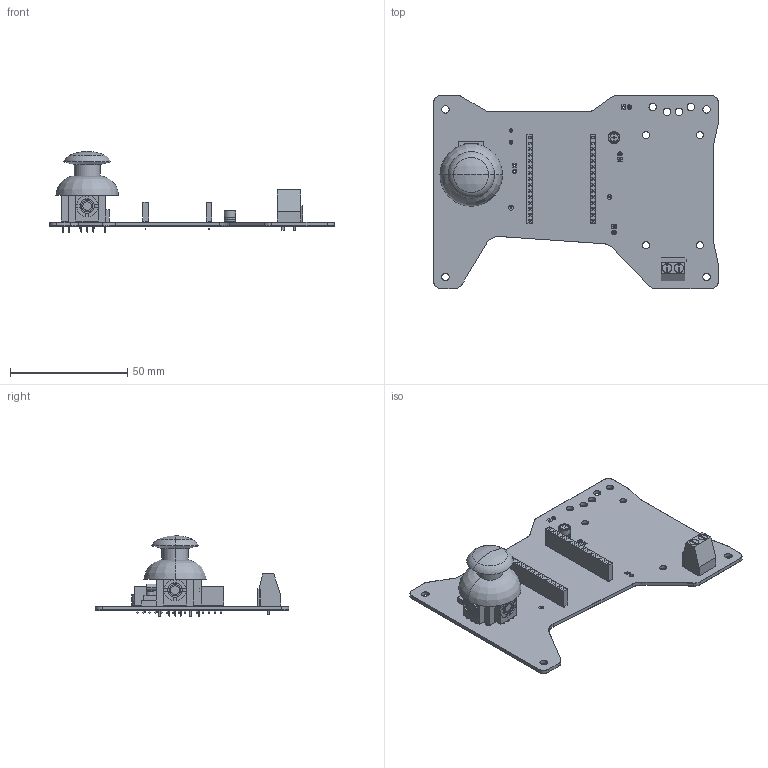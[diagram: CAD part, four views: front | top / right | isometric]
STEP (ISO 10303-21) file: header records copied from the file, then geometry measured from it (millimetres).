
FILE_DESCRIPTION(('KiCad electronic assembly'),'2;1');
FILE_NAME('MetalMonster_PCB_Assembly.step','2026-10-14T23:20:15',( 'Pcbnew'),('Kicad'),'Open CASCADE STEP processor 7.8', 'KiCad to STEP converter','Unknown');
FILE_SCHEMA(('AUTOMOTIVE_DESIGN { 1 0 10303 214 1 1 1 1 }'));
Length unit declared in the file: millimetre
Products named in the file (9): MetalMonster_PCB_Assembly 1; CP_Radial_D5.0mm_P2.00mm; TerminalBlock_Phoenix_MKDS-1,5-2-5.08_1x02_P5.08mm_Horizontal; MANUAL_THROUGH_WIRE_AR8; PinSocket_1x15_P2.54mm_Vertical; COM-09032; remote_pad; remote_soldermask; remote_PCB
Assembly tree (10 placements, depth 2):
  MetalMonster_PCB_Assembly 1
    CP_Radial_D5.0mm_P2.00mm
    TerminalBlock_Phoenix_MKDS-1,5-2-5.08_1x02_P5.08mm_Horizontal
    MANUAL_THROUGH_WIRE_AR8  x2
    PinSocket_1x15_P2.54mm_Vertical  x2
    COM-09032
    remote_pad
    remote_soldermask
    remote_PCB
Bounding box: 121.5 x 82.5 x 34.67 mm (x, y, z)
Volume: 21176.2 mm3; surface area: 42666.9 mm2
Topology: 90 solids, 93 shells, 1575 faces, 4156 edges, 2840 vertices
Faces by surface type: plane 1244, cylinder 298, bspline 14, revolution 9, torus 4, cone 4, sphere 2
Full cylindrical faces by diameter (mm): 0.5 x2, 0.75 x10, 0.8 x8, 0.839 x6, 0.85 x4, 0.889 x6, 0.9 x12, 0.95 x38, 1 x30, 1.25 x2, 1.3 x2, 1.347 x4, 1.397 x4, 1.6 x3, 1.778 x10, 1.8 x28, 2 x4, 2.286 x4, 2.6 x1, 3 x4, 3.2 x8, 3.8 x2, 4 x2
Entity records: 44273 total; most frequent: CARTESIAN_POINT 7237, DIRECTION 6301, ORIENTED_EDGE 5848, EDGE_CURVE 3112, LINE 2200, VECTOR 2200, VERTEX_POINT 2164, AXIS2_PLACEMENT_3D 2046
